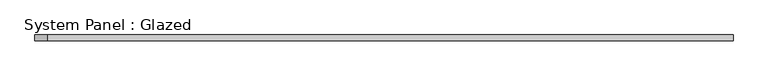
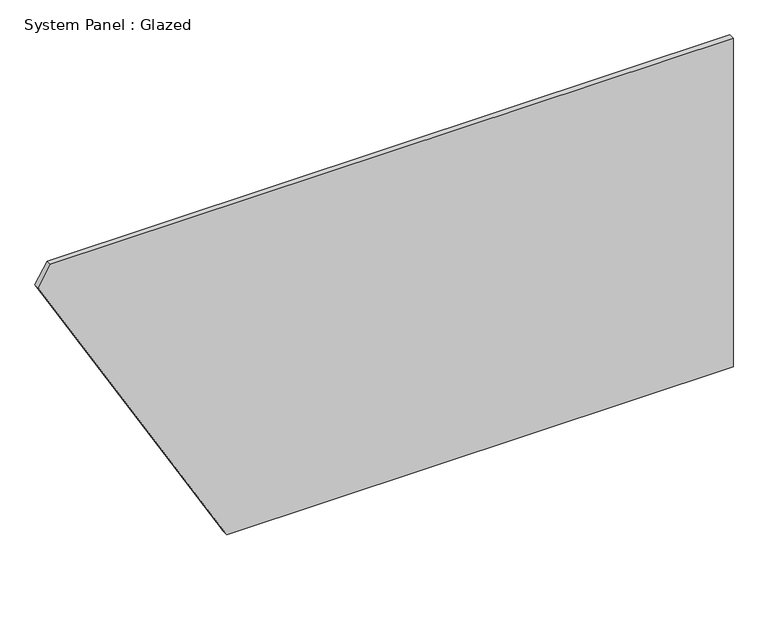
"""IFC4 building model written with IfcOpenShell, lengths in millimetres: plate geometry, System Panel : Glazed."""

import ifcopenshell
import ifcopenshell.guid

model = None  # the IFC model being written
_history = None  # IfcOwnerHistory: only IFC2X3 demands one
_inside = {}  # id of a spatial element -> (the spatial element, [elements in it])
_under = {}  # id of a project, library or spatial element -> (it, [spatial elements below it])
_declared = {}  # id of a project -> (the project, [libraries it declares])
_typed = {}  # id of a type object -> (the type object, [elements of that type])
_made_of = {}  # id of a material, layer set ... -> (it, [elements and type objects made of it])


def new_model(schema):
    """Start an empty IFC model of exactly this schema.

    Asked for "IFC4X3", IfcOpenShell would pick the latest addendum, in which some entities
    have other attributes; the version numbers below select the first issue.
    IFC2X3 requires an IfcOwnerHistory on every rooted entity: one is made here for all.
    """
    global model, _history
    if schema == "IFC4X3":
        model = ifcopenshell.file(schema_version=(4, 3, 0, 0))
    else:
        model = ifcopenshell.file(schema=schema)
    _inside.clear()
    _under.clear()
    _declared.clear()
    _typed.clear()
    _made_of.clear()
    _history = None
    if model.schema == "IFC2X3":
        org = make("IfcOrganization", Name="unknown")
        user = make(
            "IfcPersonAndOrganization",
            ThePerson=make("IfcPerson", FamilyName="unknown"),
            TheOrganization=org,
        )
        app = make(
            "IfcApplication",
            ApplicationDeveloper=org,
            Version="unknown",
            ApplicationFullName="unknown",
            ApplicationIdentifier="unknown",
        )
        _history = make(
            "IfcOwnerHistory",
            OwningUser=user,
            OwningApplication=app,
            ChangeAction="ADDED",
            CreationDate=0,
        )
    return model


def make(cls, **values):
    """One entity of the class cls with the attributes given. An attribute that is None is left unset."""
    return model.create_entity(
        cls, **{name: value for name, value in values.items() if value is not None}
    )


def rooted(cls, **values):
    """An entity with a GlobalId (a new one), such as an element, a storey or a relation."""
    return make(cls, GlobalId=ifcopenshell.guid.new(), OwnerHistory=_history, **values)


def si_unit(unit_type, name, prefix=None):
    """IfcSIUnit, for example si_unit("LENGTHUNIT", "METRE", prefix="MILLI")."""
    return make("IfcSIUnit", UnitType=unit_type, Prefix=prefix, Name=name)


def assignment(units):
    """IfcUnitAssignment: the units of a project."""
    return None if units is None else make("IfcUnitAssignment", Units=units)


def point(xyz):
    """IfcCartesianPoint."""
    return None if xyz is None else make("IfcCartesianPoint", Coordinates=xyz)


def direction(xyz):
    """IfcDirection."""
    return None if xyz is None else make("IfcDirection", DirectionRatios=xyz)


def frame(location, z_axis=None, x_axis=None):
    """IfcAxis2Placement3D, a coordinate frame: its origin and axes. An axis left out is left unset."""
    return make(
        "IfcAxis2Placement3D",
        Location=point(location),
        Axis=direction(z_axis),
        RefDirection=direction(x_axis),
    )


def origin():
    """The frame at (0, 0, 0) with its axes left unset."""
    return frame((0.0, 0.0, 0.0))


def place(relative_to, where):
    """IfcLocalPlacement: puts the frame where relative to a parent placement (None: the world)."""
    return make(
        "IfcLocalPlacement", PlacementRelTo=relative_to, RelativePlacement=where
    )


def context(
    kind, dimensions, precision=None, world=None, true_north=None, identifier=None
):
    """IfcGeometricRepresentationContext, for example the 3D "Model" context."""
    return make(
        "IfcGeometricRepresentationContext",
        ContextIdentifier=identifier,
        ContextType=kind,
        CoordinateSpaceDimension=dimensions,
        Precision=precision,
        WorldCoordinateSystem=world,
        TrueNorth=true_north,
    )


def project(units=None, contexts=None):
    """IfcProject with its units and contexts."""
    return rooted(
        "IfcProject",
        Name="project",
        RepresentationContexts=contexts,
        UnitsInContext=assignment(units),
    )


def spatial(cls, under=None, at=None, **own):
    """A site, building, storey or space (cls), placed at a placement, below another one or the project."""
    s = rooted(cls, ObjectPlacement=at, **own)
    if under is not None:
        _under.setdefault(under.id(), (under, []))[1].append(s)
    return s


def polyline(points):
    """IfcPolyline through the points."""
    return make("IfcPolyline", Points=[point(p) for p in points])


def outline(outer, holes=None, kind="AREA"):
    """IfcArbitraryClosedProfileDef: a profile drawn as a closed curve; with holes, ...WithVoids."""
    if holes is None:
        return make("IfcArbitraryClosedProfileDef", ProfileType=kind, OuterCurve=outer)
    return make(
        "IfcArbitraryProfileDefWithVoids",
        ProfileType=kind,
        OuterCurve=outer,
        InnerCurves=holes,
    )


def extrude(swept, where, along, depth):
    """IfcExtrudedAreaSolid: the profile swept, set in the frame where, extruded along a direction by depth."""
    return make(
        "IfcExtrudedAreaSolid",
        SweptArea=swept,
        Position=where,
        ExtrudedDirection=direction(along),
        Depth=depth,
    )


def shape(context_of_items, identifier, shape_type, items):
    """IfcShapeRepresentation: the items that make up one representation, for example the "Body"."""
    return make(
        "IfcShapeRepresentation",
        ContextOfItems=context_of_items,
        RepresentationIdentifier=identifier,
        RepresentationType=shape_type,
        Items=items,
    )


def source(mapping_origin, context_of_items, identifier, shape_type, items):
    """IfcRepresentationMap: a shape defined once, which mapped items show again and again."""
    return make(
        "IfcRepresentationMap",
        MappingOrigin=mapping_origin,
        MappedRepresentation=shape(context_of_items, identifier, shape_type, items),
    )


def transform(
    local_origin,
    x_axis=None,
    y_axis=None,
    z_axis=None,
    scale=None,
    scale2=None,
    scale3=None,
    uniform=True,
):
    """IfcCartesianTransformationOperator3D, or its non-uniform kind. x_axis, y_axis, z_axis: its Axis1, 2, 3."""
    if uniform:
        return make(
            "IfcCartesianTransformationOperator3D",
            Axis1=direction(x_axis),
            Axis2=direction(y_axis),
            LocalOrigin=point(local_origin),
            Scale=scale,
            Axis3=direction(z_axis),
        )
    return make(
        "IfcCartesianTransformationOperator3DnonUniform",
        Axis1=direction(x_axis),
        Axis2=direction(y_axis),
        LocalOrigin=point(local_origin),
        Scale=scale,
        Axis3=direction(z_axis),
        Scale2=scale2,
        Scale3=scale3,
    )


def mapped(mapping_source, mapping_target):
    """IfcMappedItem: shows the shape of a source again, moved by a transform."""
    return make(
        "IfcMappedItem", MappingSource=mapping_source, MappingTarget=mapping_target
    )


def made_of(thing, what):
    """Note that an element or type object is made of a material, layer set ...; save() writes the relation."""
    if what is not None:
        _made_of.setdefault(what.id(), (what, []))[1].append(thing)
    return thing


def element(
    cls,
    number,
    at=None,
    inside=None,
    cuts=None,
    type_object=None,
    material=None,
    context=None,
    identifier="Body",
    shape_type=None,
    held_by="IfcProductDefinitionShape",
    body=None,
    shapes=None,
    **own,
):
    """One element of the class cls, such as IfcWall. Its Tag is "e" and its number.

    at: its placement. inside: the storey or other place that contains it. cuts: it is an
    opening in that element (IfcRelVoidsElement). A single representation is given by context,
    identifier, shape_type and body (its items); several are given by shapes. held_by: the class
    of the entity that holds the representations. save() writes the other relations.
    """
    e = rooted(cls, Tag="e%d" % number, ObjectPlacement=at, **own)
    if body is not None:
        shapes = [shape(context, identifier, shape_type, body)]
    if shapes is not None:
        e.Representation = make(held_by, Representations=shapes)
    if inside is not None:
        _inside.setdefault(inside.id(), (inside, []))[1].append(e)
    if cuts is not None:
        rooted(
            "IfcRelVoidsElement", RelatingBuildingElement=cuts, RelatedOpeningElement=e
        )
    if type_object is not None:
        _typed.setdefault(type_object.id(), (type_object, []))[1].append(e)
    return made_of(e, material)


def aggregate(whole, parts):
    """IfcRelAggregates: a whole, such as a stair, and the parts it consists of."""
    return rooted("IfcRelAggregates", RelatingObject=whole, RelatedObjects=parts)


def save(model, path):
    """Write the relations noted so far, then the file.

    IfcRelAggregates (storeys below a building ...), IfcRelContainedInSpatialStructure (elements
    in a storey), IfcRelDefinesByType, IfcRelAssociatesMaterial and IfcRelDeclares: one each for
    every whole, place, type object, material and project.
    """
    for whole, parts in _under.values():
        aggregate(whole, parts)
    for where, things in _inside.values():
        rooted(
            "IfcRelContainedInSpatialStructure",
            RelatedElements=things,
            RelatingStructure=where,
        )
    for kind, things in _typed.values():
        rooted("IfcRelDefinesByType", RelatedObjects=things, RelatingType=kind)
    for what, things in _made_of.values():
        rooted("IfcRelAssociatesMaterial", RelatedObjects=things, RelatingMaterial=what)
    for by, libraries in _declared.values():
        rooted("IfcRelDeclares", RelatingContext=by, RelatedDefinitions=libraries)
    model.write(path)


def system_panel_glazed_ebe184de(model_context):
    return source(origin(), model_context, "Body", "SweptSolid", [
        extrude(outline(polyline([(0.0, -697.1777362), (0.0, 1524.0000002), (1524.0, 1524.0000002), (1524.0, -1470.9404539), (1432.09817, -1524.0000002), (0.0, -697.1777362)])), frame((0.0, 19.05, 0.0), z_axis=(0.0, 1.0, 0.0), x_axis=(0.0, 0.0, 1.0)), (0.0, 0.0, 1.0), 25.4),
    ])


if __name__ == "__main__":
    model = new_model("IFC4")
    model_context = context("Model", 3, world=origin())
    ifc_project = project(units=[si_unit("LENGTHUNIT", "METRE", prefix="MILLI")], contexts=[model_context])
    site = spatial("IfcSite", under=ifc_project)
    building = spatial("IfcBuilding", under=site)
    placement = place(None, origin())
    system_panel_glazed_shape = system_panel_glazed_ebe184de(model_context)
    element("IfcPlate", 1, ObjectType="System Panel : Glazed", at=placement, inside=building, context=model_context, shape_type="MappedRepresentation", body=[
        mapped(system_panel_glazed_shape, transform((0.0, 0.0, 0.0), x_axis=(1.0, 0.0, 0.0), y_axis=(0.0, 1.0, 0.0), z_axis=(0.0, 0.0, 1.0))),
    ])
    save(model, "model.ifc")
